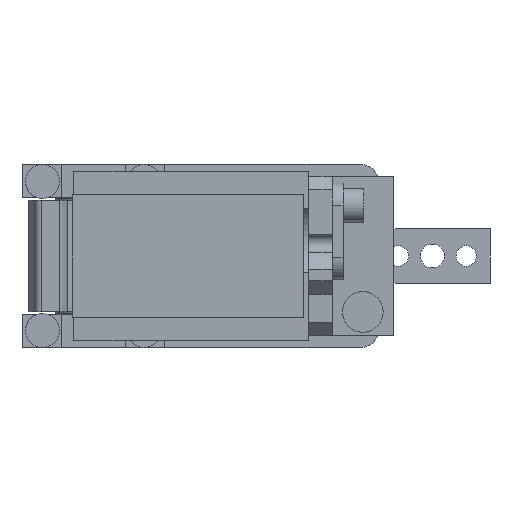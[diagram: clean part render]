
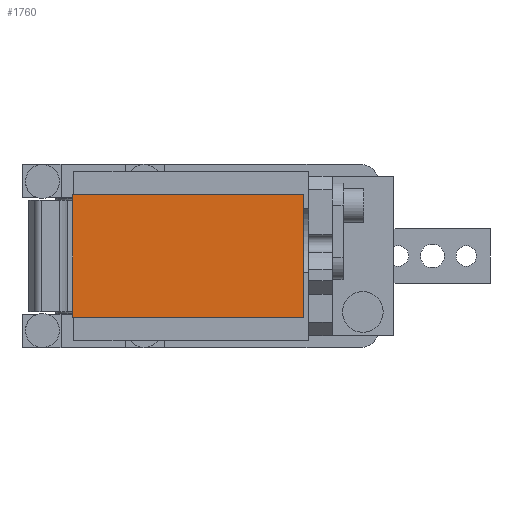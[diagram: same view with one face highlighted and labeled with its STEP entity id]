
A CAD part, front view. The second image highlights one B-rep face of the part: STEP entity #1760.
In plain terms, the highlighted planar face has unit normal (0, -1, 0).
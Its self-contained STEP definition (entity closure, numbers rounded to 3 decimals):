
#675 = VECTOR ( 'NONE', #12902, 1000. ) ;
#1205 = CARTESIAN_POINT ( 'NONE',  ( -6., -233., -18. ) ) ;
#1267 = CARTESIAN_POINT ( 'NONE',  ( -6., -233., 18. ) ) ;
#1347 = ORIENTED_EDGE ( 'NONE', *, *, #12180, .T. ) ;
#1405 = LINE ( 'NONE', #1267, #7184 ) ;
#1462 = CARTESIAN_POINT ( 'NONE',  ( -6., -233., 18. ) ) ;
#1760 = ADVANCED_FACE ( 'NONE', ( #8703 ), #9777, .T. ) ;
#2047 = ORIENTED_EDGE ( 'NONE', *, *, #11923, .T. ) ;
#3231 = EDGE_LOOP ( 'NONE', ( #2047, #1347, #5162, #11145 ) ) ;
#3497 = DIRECTION ( 'NONE',  ( -1., 0., 0. ) ) ;
#4067 = VECTOR ( 'NONE', #9140, 1000. ) ;
#4175 = CARTESIAN_POINT ( 'NONE',  ( -6., -233., -18. ) ) ;
#4255 = LINE ( 'NONE', #8577, #675 ) ;
#4742 = AXIS2_PLACEMENT_3D ( 'NONE', #13029, #10843, #11894 ) ;
#5038 = CARTESIAN_POINT ( 'NONE',  ( -6., -233., 18. ) ) ;
#5162 = ORIENTED_EDGE ( 'NONE', *, *, #10911, .T. ) ;
#6434 = VERTEX_POINT ( 'NONE', #6535 ) ;
#6535 = CARTESIAN_POINT ( 'NONE',  ( 62., -233., -18. ) ) ;
#6573 = VERTEX_POINT ( 'NONE', #5038 ) ;
#7184 = VECTOR ( 'NONE', #3497, 1000. ) ;
#8577 = CARTESIAN_POINT ( 'NONE',  ( 62., -233., 18. ) ) ;
#8703 = FACE_OUTER_BOUND ( 'NONE', #3231, .T. ) ;
#9140 = DIRECTION ( 'NONE',  ( 0., 0., -1. ) ) ;
#9562 = LINE ( 'NONE', #4175, #13720 ) ;
#9777 = PLANE ( 'NONE',  #4742 ) ;
#10563 = EDGE_CURVE ( 'NONE', #11026, #6573, #1405, .T. ) ;
#10603 = CARTESIAN_POINT ( 'NONE',  ( 62., -233., 18. ) ) ;
#10843 = DIRECTION ( 'NONE',  ( 0., -1., 0. ) ) ;
#10911 = EDGE_CURVE ( 'NONE', #6434, #11026, #4255, .T. ) ;
#11026 = VERTEX_POINT ( 'NONE', #10603 ) ;
#11145 = ORIENTED_EDGE ( 'NONE', *, *, #10563, .T. ) ;
#11149 = LINE ( 'NONE', #1462, #4067 ) ;
#11891 = DIRECTION ( 'NONE',  ( 1., 0., 0. ) ) ;
#11894 = DIRECTION ( 'NONE',  ( 0., 0., -1. ) ) ;
#11923 = EDGE_CURVE ( 'NONE', #6573, #13446, #11149, .T. ) ;
#12180 = EDGE_CURVE ( 'NONE', #13446, #6434, #9562, .T. ) ;
#12902 = DIRECTION ( 'NONE',  ( 0., 0., 1. ) ) ;
#13029 = CARTESIAN_POINT ( 'NONE',  ( 0., -233., 0. ) ) ;
#13446 = VERTEX_POINT ( 'NONE', #1205 ) ;
#13720 = VECTOR ( 'NONE', #11891, 1000. ) ;
